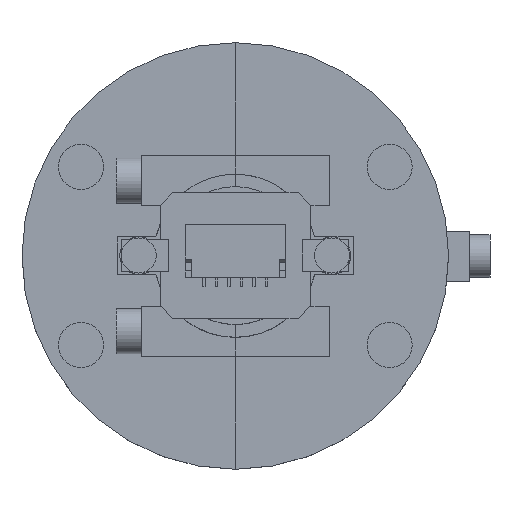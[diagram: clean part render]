
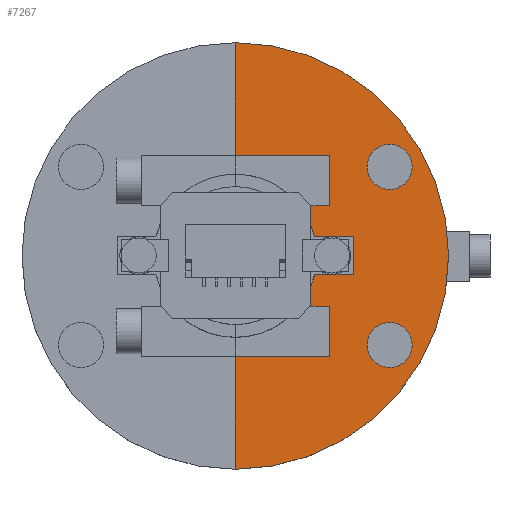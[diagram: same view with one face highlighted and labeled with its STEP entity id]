
A CAD part, top view. The second image highlights one B-rep face of the part: STEP entity #7267.
In plain terms, the highlighted planar face has unit normal (0, 0, 1).
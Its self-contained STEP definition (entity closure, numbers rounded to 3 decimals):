
#4283 = CYLINDRICAL_SURFACE('',#4284,6.5);
#4284 = AXIS2_PLACEMENT_3D('',#4285,#4286,#4287);
#4285 = CARTESIAN_POINT('',(0.,0.,1.5));
#4286 = DIRECTION('',(0.,0.,1.));
#4287 = DIRECTION('',(1.,0.,-0.));
#4295 = PLANE('',#4296);
#4296 = AXIS2_PLACEMENT_3D('',#4297,#4298,#4299);
#4297 = CARTESIAN_POINT('',(0.,-60.,-70.));
#4298 = DIRECTION('',(1.,0.,0.));
#4299 = DIRECTION('',(0.,0.,1.));
#4461 = PLANE('',#4462);
#4462 = AXIS2_PLACEMENT_3D('',#4463,#4464,#4465);
#4463 = CARTESIAN_POINT('',(0.,-60.,-70.));
#4464 = DIRECTION('',(1.,0.,0.));
#4465 = DIRECTION('',(0.,0.,1.));
#4558 = VERTEX_POINT('',#4559);
#4559 = CARTESIAN_POINT('',(0.,-6.5,3.));
#4579 = EDGE_CURVE('',#4558,#4580,#4582,.T.);
#4580 = VERTEX_POINT('',#4581);
#4581 = CARTESIAN_POINT('',(0.,6.5,3.));
#4582 = SURFACE_CURVE('',#4583,(#4588,#4595),.PCURVE_S1.);
#4583 = CIRCLE('',#4584,6.5);
#4584 = AXIS2_PLACEMENT_3D('',#4585,#4586,#4587);
#4585 = CARTESIAN_POINT('',(0.,0.,3.));
#4586 = DIRECTION('',(0.,0.,1.));
#4587 = DIRECTION('',(0.,-1.,0.));
#4588 = PCURVE('',#4283,#4589);
#4589 = DEFINITIONAL_REPRESENTATION('',(#4590),#4594);
#4590 = LINE('',#4591,#4592);
#4591 = CARTESIAN_POINT('',(4.712,1.5));
#4592 = VECTOR('',#4593,1.);
#4593 = DIRECTION('',(1.,0.));
#4594 = ( GEOMETRIC_REPRESENTATION_CONTEXT(2) 
PARAMETRIC_REPRESENTATION_CONTEXT() REPRESENTATION_CONTEXT('2D SPACE',''
  ) );
#4595 = PCURVE('',#4596,#4601);
#4596 = PLANE('',#4597);
#4597 = AXIS2_PLACEMENT_3D('',#4598,#4599,#4600);
#4598 = CARTESIAN_POINT('',(0.,0.,3.));
#4599 = DIRECTION('',(0.,0.,1.));
#4600 = DIRECTION('',(1.,0.,-0.));
#4601 = DEFINITIONAL_REPRESENTATION('',(#4602),#4606);
#4602 = CIRCLE('',#4603,6.5);
#4603 = AXIS2_PLACEMENT_2D('',#4604,#4605);
#4604 = CARTESIAN_POINT('',(0.,0.));
#4605 = DIRECTION('',(0.,-1.));
#4606 = ( GEOMETRIC_REPRESENTATION_CONTEXT(2) 
PARAMETRIC_REPRESENTATION_CONTEXT() REPRESENTATION_CONTEXT('2D SPACE',''
  ) );
#5024 = VERTEX_POINT('',#5025);
#5025 = CARTESIAN_POINT('',(0.,17.,3.));
#5039 = CYLINDRICAL_SURFACE('',#5040,17.);
#5040 = AXIS2_PLACEMENT_3D('',#5041,#5042,#5043);
#5041 = CARTESIAN_POINT('',(0.,0.,1.5));
#5042 = DIRECTION('',(0.,0.,1.));
#5043 = DIRECTION('',(1.,0.,-0.));
#5050 = EDGE_CURVE('',#4580,#5024,#5051,.T.);
#5051 = SURFACE_CURVE('',#5052,(#5056,#5063),.PCURVE_S1.);
#5052 = LINE('',#5053,#5054);
#5053 = CARTESIAN_POINT('',(0.,-30.,3.));
#5054 = VECTOR('',#5055,1.);
#5055 = DIRECTION('',(0.,1.,0.));
#5056 = PCURVE('',#4295,#5057);
#5057 = DEFINITIONAL_REPRESENTATION('',(#5058),#5062);
#5058 = LINE('',#5059,#5060);
#5059 = CARTESIAN_POINT('',(73.,-30.));
#5060 = VECTOR('',#5061,1.);
#5061 = DIRECTION('',(0.,-1.));
#5062 = ( GEOMETRIC_REPRESENTATION_CONTEXT(2) 
PARAMETRIC_REPRESENTATION_CONTEXT() REPRESENTATION_CONTEXT('2D SPACE',''
  ) );
#5063 = PCURVE('',#4596,#5064);
#5064 = DEFINITIONAL_REPRESENTATION('',(#5065),#5069);
#5065 = LINE('',#5066,#5067);
#5066 = CARTESIAN_POINT('',(0.,-30.));
#5067 = VECTOR('',#5068,1.);
#5068 = DIRECTION('',(0.,1.));
#5069 = ( GEOMETRIC_REPRESENTATION_CONTEXT(2) 
PARAMETRIC_REPRESENTATION_CONTEXT() REPRESENTATION_CONTEXT('2D SPACE',''
  ) );
#5598 = EDGE_CURVE('',#5599,#4558,#5601,.T.);
#5599 = VERTEX_POINT('',#5600);
#5600 = CARTESIAN_POINT('',(0.,-17.,3.));
#5601 = SURFACE_CURVE('',#5602,(#5606,#5613),.PCURVE_S1.);
#5602 = LINE('',#5603,#5604);
#5603 = CARTESIAN_POINT('',(0.,-30.,3.));
#5604 = VECTOR('',#5605,1.);
#5605 = DIRECTION('',(0.,1.,0.));
#5606 = PCURVE('',#4461,#5607);
#5607 = DEFINITIONAL_REPRESENTATION('',(#5608),#5612);
#5608 = LINE('',#5609,#5610);
#5609 = CARTESIAN_POINT('',(73.,-30.));
#5610 = VECTOR('',#5611,1.);
#5611 = DIRECTION('',(0.,-1.));
#5612 = ( GEOMETRIC_REPRESENTATION_CONTEXT(2) 
PARAMETRIC_REPRESENTATION_CONTEXT() REPRESENTATION_CONTEXT('2D SPACE',''
  ) );
#5613 = PCURVE('',#4596,#5614);
#5614 = DEFINITIONAL_REPRESENTATION('',(#5615),#5619);
#5615 = LINE('',#5616,#5617);
#5616 = CARTESIAN_POINT('',(0.,-30.));
#5617 = VECTOR('',#5618,1.);
#5618 = DIRECTION('',(0.,1.));
#5619 = ( GEOMETRIC_REPRESENTATION_CONTEXT(2) 
PARAMETRIC_REPRESENTATION_CONTEXT() REPRESENTATION_CONTEXT('2D SPACE',''
  ) );
#7267 = ADVANCED_FACE('',(#7268,#7295,#7326),#4596,.T.);
#7268 = FACE_BOUND('',#7269,.T.);
#7269 = EDGE_LOOP('',(#7270,#7292,#7293,#7294));
#7270 = ORIENTED_EDGE('',*,*,#7271,.T.);
#7271 = EDGE_CURVE('',#5599,#5024,#7272,.T.);
#7272 = SURFACE_CURVE('',#7273,(#7278,#7285),.PCURVE_S1.);
#7273 = CIRCLE('',#7274,17.);
#7274 = AXIS2_PLACEMENT_3D('',#7275,#7276,#7277);
#7275 = CARTESIAN_POINT('',(0.,0.,3.));
#7276 = DIRECTION('',(0.,0.,1.));
#7277 = DIRECTION('',(0.,-1.,0.));
#7278 = PCURVE('',#4596,#7279);
#7279 = DEFINITIONAL_REPRESENTATION('',(#7280),#7284);
#7280 = CIRCLE('',#7281,17.);
#7281 = AXIS2_PLACEMENT_2D('',#7282,#7283);
#7282 = CARTESIAN_POINT('',(0.,0.));
#7283 = DIRECTION('',(0.,-1.));
#7284 = ( GEOMETRIC_REPRESENTATION_CONTEXT(2) 
PARAMETRIC_REPRESENTATION_CONTEXT() REPRESENTATION_CONTEXT('2D SPACE',''
  ) );
#7285 = PCURVE('',#5039,#7286);
#7286 = DEFINITIONAL_REPRESENTATION('',(#7287),#7291);
#7287 = LINE('',#7288,#7289);
#7288 = CARTESIAN_POINT('',(4.712,1.5));
#7289 = VECTOR('',#7290,1.);
#7290 = DIRECTION('',(1.,0.));
#7291 = ( GEOMETRIC_REPRESENTATION_CONTEXT(2) 
PARAMETRIC_REPRESENTATION_CONTEXT() REPRESENTATION_CONTEXT('2D SPACE',''
  ) );
#7292 = ORIENTED_EDGE('',*,*,#5050,.F.);
#7293 = ORIENTED_EDGE('',*,*,#4579,.F.);
#7294 = ORIENTED_EDGE('',*,*,#5598,.F.);
#7295 = FACE_BOUND('',#7296,.T.);
#7296 = EDGE_LOOP('',(#7297));
#7297 = ORIENTED_EDGE('',*,*,#7298,.F.);
#7298 = EDGE_CURVE('',#7299,#7299,#7301,.T.);
#7299 = VERTEX_POINT('',#7300);
#7300 = CARTESIAN_POINT('',(13.4,-7.1,3.));
#7301 = SURFACE_CURVE('',#7302,(#7307,#7314),.PCURVE_S1.);
#7302 = CIRCLE('',#7303,1.1);
#7303 = AXIS2_PLACEMENT_3D('',#7304,#7305,#7306);
#7304 = CARTESIAN_POINT('',(12.3,-7.1,3.));
#7305 = DIRECTION('',(0.,0.,1.));
#7306 = DIRECTION('',(1.,0.,-0.));
#7307 = PCURVE('',#4596,#7308);
#7308 = DEFINITIONAL_REPRESENTATION('',(#7309),#7313);
#7309 = CIRCLE('',#7310,1.1);
#7310 = AXIS2_PLACEMENT_2D('',#7311,#7312);
#7311 = CARTESIAN_POINT('',(12.3,-7.1));
#7312 = DIRECTION('',(1.,0.));
#7313 = ( GEOMETRIC_REPRESENTATION_CONTEXT(2) 
PARAMETRIC_REPRESENTATION_CONTEXT() REPRESENTATION_CONTEXT('2D SPACE',''
  ) );
#7314 = PCURVE('',#7315,#7320);
#7315 = CYLINDRICAL_SURFACE('',#7316,1.1);
#7316 = AXIS2_PLACEMENT_3D('',#7317,#7318,#7319);
#7317 = CARTESIAN_POINT('',(12.3,-7.1,1.4));
#7318 = DIRECTION('',(0.,0.,1.));
#7319 = DIRECTION('',(1.,0.,-0.));
#7320 = DEFINITIONAL_REPRESENTATION('',(#7321),#7325);
#7321 = LINE('',#7322,#7323);
#7322 = CARTESIAN_POINT('',(0.,1.6));
#7323 = VECTOR('',#7324,1.);
#7324 = DIRECTION('',(1.,0.));
#7325 = ( GEOMETRIC_REPRESENTATION_CONTEXT(2) 
PARAMETRIC_REPRESENTATION_CONTEXT() REPRESENTATION_CONTEXT('2D SPACE',''
  ) );
#7326 = FACE_BOUND('',#7327,.T.);
#7327 = EDGE_LOOP('',(#7328));
#7328 = ORIENTED_EDGE('',*,*,#7329,.F.);
#7329 = EDGE_CURVE('',#7330,#7330,#7332,.T.);
#7330 = VERTEX_POINT('',#7331);
#7331 = CARTESIAN_POINT('',(13.4,7.1,3.));
#7332 = SURFACE_CURVE('',#7333,(#7338,#7345),.PCURVE_S1.);
#7333 = CIRCLE('',#7334,1.1);
#7334 = AXIS2_PLACEMENT_3D('',#7335,#7336,#7337);
#7335 = CARTESIAN_POINT('',(12.3,7.1,3.));
#7336 = DIRECTION('',(0.,0.,1.));
#7337 = DIRECTION('',(1.,0.,-0.));
#7338 = PCURVE('',#4596,#7339);
#7339 = DEFINITIONAL_REPRESENTATION('',(#7340),#7344);
#7340 = CIRCLE('',#7341,1.1);
#7341 = AXIS2_PLACEMENT_2D('',#7342,#7343);
#7342 = CARTESIAN_POINT('',(12.3,7.1));
#7343 = DIRECTION('',(1.,0.));
#7344 = ( GEOMETRIC_REPRESENTATION_CONTEXT(2) 
PARAMETRIC_REPRESENTATION_CONTEXT() REPRESENTATION_CONTEXT('2D SPACE',''
  ) );
#7345 = PCURVE('',#7346,#7351);
#7346 = CYLINDRICAL_SURFACE('',#7347,1.1);
#7347 = AXIS2_PLACEMENT_3D('',#7348,#7349,#7350);
#7348 = CARTESIAN_POINT('',(12.3,7.1,1.4));
#7349 = DIRECTION('',(0.,0.,1.));
#7350 = DIRECTION('',(1.,0.,-0.));
#7351 = DEFINITIONAL_REPRESENTATION('',(#7352),#7356);
#7352 = LINE('',#7353,#7354);
#7353 = CARTESIAN_POINT('',(0.,1.6));
#7354 = VECTOR('',#7355,1.);
#7355 = DIRECTION('',(1.,0.));
#7356 = ( GEOMETRIC_REPRESENTATION_CONTEXT(2) 
PARAMETRIC_REPRESENTATION_CONTEXT() REPRESENTATION_CONTEXT('2D SPACE',''
  ) );
